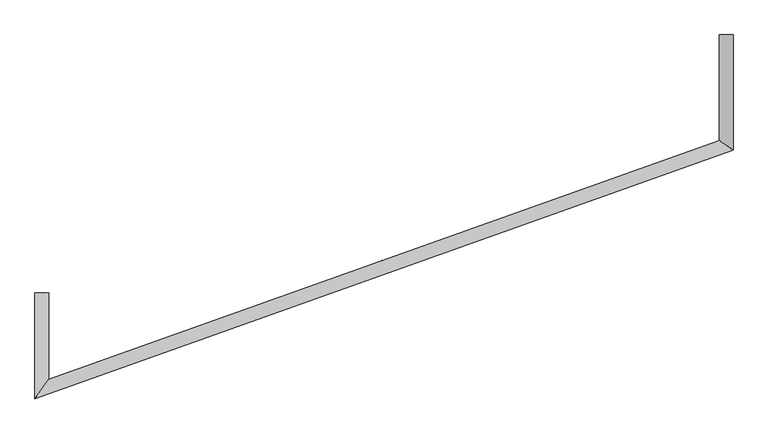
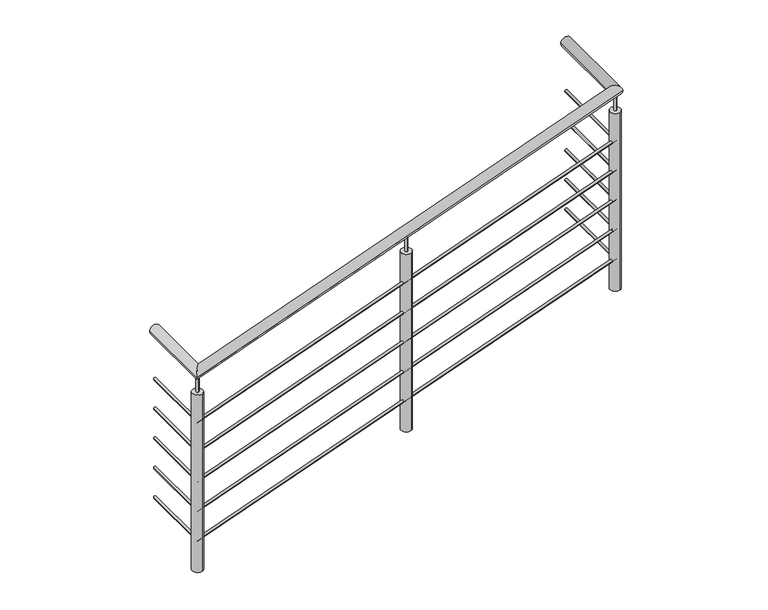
"""IFC4 building model written with IfcOpenShell, lengths in millimetres: railing geometry, Barandal general 2 sin inicio."""

from ifc_helpers import new_model, si_unit, point, frame, frame_2d, origin, place, context, project, spatial, circle_curve, ellipse_curve, trimmed, segment, composite_curve, outline, extrude, source, transform, mapped, element, save
from ifc_brep_helpers import plane_surface, cylinder_surface, advanced_brep


def railing_0f025872(model_context):
    return source(origin(), model_context, "Body", "SolidModel", [
        advanced_brep(
        [(39004.1057586, 22857.0021633, 13000.0), (39054.9057586, 22857.0021633, 13000.0), (39054.9057586, 22431.9822302, 13000.0), (39004.1057586, 22467.808589, 13000.0), (36484.1300226, 21515.8771439, 13000.0), (36534.9300226, 21587.9090245, 13000.0), (36534.9300226, 21905.5468038, 13000.0), (36484.1300226, 21905.5468038, 13000.0)],
        [
            (0, 1, circle_curve(frame((39029.5057586, 22857.0021633, 13000.0), z_axis=(0.0, 1.0, 0.0), x_axis=(1.0, 0.0, 0.0)), 25.4)),
            (1, 0, circle_curve(frame((39029.5057586, 22857.0021633, 13000.0), z_axis=(0.0, 1.0, 0.0), x_axis=(1.0, 0.0, 0.0)), 25.4)),
            (1, 2),
            (2, 3, ellipse_curve(frame((39029.5057586, 22449.8954096, 13000.0), z_axis=(0.5763345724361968, 0.8172138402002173, 0.0), x_axis=(-0.8172138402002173, 0.5763345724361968, 0.0)), 31.0812161, 25.4)),
            (3, 0),
            (3, 2, ellipse_curve(frame((39029.5057586, 22449.8954096, 13000.0), z_axis=(0.5763345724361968, 0.8172138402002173, 0.0), x_axis=(-0.8172138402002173, 0.5763345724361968, 0.0)), 31.0812161, 25.4)),
            (2, 4),
            (4, 5, ellipse_curve(frame((36509.5300226, 21551.8930842, 13000.0), z_axis=(0.8172138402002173, -0.5763345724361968, 0.0), x_axis=(0.5763345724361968, 0.8172138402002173, 0.0)), 44.071623, 25.4)),
            (5, 3),
            (5, 4, ellipse_curve(frame((36509.5300226, 21551.8930842, 13000.0), z_axis=(0.8172138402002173, -0.5763345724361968, 0.0), x_axis=(0.5763345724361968, 0.8172138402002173, 0.0)), 44.071623, 25.4)),
            (6, 7, circle_curve(frame((36509.5300226, 21905.5468038, 13000.0), z_axis=(0.0, 1.0, 0.0), x_axis=(-1.0, 0.0, 0.0)), 25.4)),
            (7, 6, circle_curve(frame((36509.5300226, 21905.5468038, 13000.0), z_axis=(0.0, 1.0, 0.0), x_axis=(-1.0, 0.0, 0.0)), 25.4)),
            (4, 7),
            (6, 5),
        ],
        [
            plane_surface(frame((39029.5057586, 22857.0021633, 13000.0), z_axis=(0.0, 1.0, 0.0), x_axis=(0.0, 0.0, -1.0))),
            cylinder_surface(frame((39029.5057586, 22857.0021633, 13000.0), z_axis=(0.0, 1.0, 0.0), x_axis=(1.0, 0.0, 0.0)), 25.4),
            cylinder_surface(frame((39029.5057586, 22449.8954096, 13000.0), z_axis=(0.9419771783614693, 0.33567692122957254, 0.0), x_axis=(0.33567692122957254, -0.9419771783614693, 0.0)), 25.4),
            plane_surface(frame((36509.5300226, 21905.5468038, 13000.0), z_axis=(0.0, 1.0, 0.0), x_axis=(0.0, 0.0, 1.0))),
            cylinder_surface(frame((36509.5300226, 21551.8930842, 13000.0), z_axis=(0.0, -1.0, 0.0), x_axis=(-1.0, 0.0, 0.0)), 25.4),
        ],
        [
            (0, [[1, 2]]),
            (1, [[-2, 3, 4, 5]]),
            (1, [[-1, -5, 6, -3]]),
            (2, [[-4, 7, 8, 9]]),
            (2, [[-6, -9, 10, -7]]),
            (3, [[11, 12]]),
            (4, [[-8, 13, -11, 14]]),
            (4, [[-10, -14, -12, -13]]),
        ],
    ),
        advanced_brep(
        [(39023.1557586, 22857.0021633, 12750.0), (39035.8557586, 22857.0021633, 12750.0), (39035.8557586, 22445.4171147, 12750.0), (39023.1557586, 22454.3737044, 12750.0), (36503.1800226, 21542.8890991, 12750.0), (36515.8800226, 21560.8970693, 12750.0), (36515.8800226, 21905.5468038, 12750.0), (36503.1800226, 21905.5468038, 12750.0)],
        [
            (0, 1, circle_curve(frame((39029.5057586, 22857.0021633, 12750.0), z_axis=(0.0, 1.0, 0.0), x_axis=(1.0, 0.0, 0.0)), 6.35)),
            (1, 0, circle_curve(frame((39029.5057586, 22857.0021633, 12750.0), z_axis=(0.0, 1.0, 0.0), x_axis=(1.0, 0.0, 0.0)), 6.35)),
            (1, 2),
            (2, 3, ellipse_curve(frame((39029.5057586, 22449.8954096, 12750.0), z_axis=(0.5763345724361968, 0.8172138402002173, 0.0), x_axis=(-0.8172138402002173, 0.5763345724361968, 0.0)), 7.770304, 6.35)),
            (3, 0),
            (3, 2, ellipse_curve(frame((39029.5057586, 22449.8954096, 12750.0), z_axis=(0.5763345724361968, 0.8172138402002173, 0.0), x_axis=(-0.8172138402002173, 0.5763345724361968, 0.0)), 7.770304, 6.35)),
            (2, 4),
            (4, 5, ellipse_curve(frame((36509.5300226, 21551.8930842, 12750.0), z_axis=(0.8172138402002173, -0.5763345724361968, 0.0), x_axis=(0.5763345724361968, 0.8172138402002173, 0.0)), 11.0179058, 6.35)),
            (5, 3),
            (5, 4, ellipse_curve(frame((36509.5300226, 21551.8930842, 12750.0), z_axis=(0.8172138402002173, -0.5763345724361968, 0.0), x_axis=(0.5763345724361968, 0.8172138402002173, 0.0)), 11.0179058, 6.35)),
            (6, 7, circle_curve(frame((36509.5300226, 21905.5468038, 12750.0), z_axis=(0.0, 1.0, 0.0), x_axis=(-1.0, 0.0, 0.0)), 6.35)),
            (7, 6, circle_curve(frame((36509.5300226, 21905.5468038, 12750.0), z_axis=(0.0, 1.0, 0.0), x_axis=(-1.0, 0.0, 0.0)), 6.35)),
            (4, 7),
            (6, 5),
        ],
        [
            plane_surface(frame((39029.5057586, 22857.0021633, 12750.0), z_axis=(0.0, 1.0, 0.0), x_axis=(0.0, 0.0, -1.0))),
            cylinder_surface(frame((39029.5057586, 22857.0021633, 12750.0), z_axis=(0.0, 1.0, 0.0), x_axis=(1.0, 0.0, 0.0)), 6.35),
            cylinder_surface(frame((39029.5057586, 22449.8954096, 12750.0), z_axis=(0.9419771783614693, 0.33567692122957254, 0.0), x_axis=(0.33567692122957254, -0.9419771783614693, 0.0)), 6.35),
            plane_surface(frame((36509.5300226, 21905.5468038, 12750.0), z_axis=(0.0, 1.0, 0.0), x_axis=(0.0, 0.0, 1.0))),
            cylinder_surface(frame((36509.5300226, 21551.8930842, 12750.0), z_axis=(0.0, -1.0, 0.0), x_axis=(-1.0, 0.0, 0.0)), 6.35),
        ],
        [
            (0, [[1, 2]]),
            (1, [[-2, 3, 4, 5]]),
            (1, [[-1, -5, 6, -3]]),
            (2, [[-4, 7, 8, 9]]),
            (2, [[-6, -9, 10, -7]]),
            (3, [[11, 12]]),
            (4, [[-8, 13, -11, 14]]),
            (4, [[-10, -14, -12, -13]]),
        ],
    ),
        advanced_brep(
        [(39023.1557586, 22857.0021633, 12600.0), (39035.8557586, 22857.0021633, 12600.0), (39035.8557586, 22445.4171147, 12600.0), (39023.1557586, 22454.3737044, 12600.0), (36503.1800226, 21542.8890991, 12600.0), (36515.8800226, 21560.8970693, 12600.0), (36515.8800226, 21905.5468038, 12600.0), (36503.1800226, 21905.5468038, 12600.0)],
        [
            (0, 1, circle_curve(frame((39029.5057586, 22857.0021633, 12600.0), z_axis=(0.0, 1.0, 0.0), x_axis=(1.0, 0.0, 0.0)), 6.35)),
            (1, 0, circle_curve(frame((39029.5057586, 22857.0021633, 12600.0), z_axis=(0.0, 1.0, 0.0), x_axis=(1.0, 0.0, 0.0)), 6.35)),
            (1, 2),
            (2, 3, ellipse_curve(frame((39029.5057586, 22449.8954096, 12600.0), z_axis=(0.5763345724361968, 0.8172138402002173, 0.0), x_axis=(-0.8172138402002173, 0.5763345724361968, 0.0)), 7.770304, 6.35)),
            (3, 0),
            (3, 2, ellipse_curve(frame((39029.5057586, 22449.8954096, 12600.0), z_axis=(0.5763345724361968, 0.8172138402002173, 0.0), x_axis=(-0.8172138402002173, 0.5763345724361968, 0.0)), 7.770304, 6.35)),
            (2, 4),
            (4, 5, ellipse_curve(frame((36509.5300226, 21551.8930842, 12600.0), z_axis=(0.8172138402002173, -0.5763345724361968, 0.0), x_axis=(0.5763345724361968, 0.8172138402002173, 0.0)), 11.0179058, 6.35)),
            (5, 3),
            (5, 4, ellipse_curve(frame((36509.5300226, 21551.8930842, 12600.0), z_axis=(0.8172138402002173, -0.5763345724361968, 0.0), x_axis=(0.5763345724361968, 0.8172138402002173, 0.0)), 11.0179058, 6.35)),
            (6, 7, circle_curve(frame((36509.5300226, 21905.5468038, 12600.0), z_axis=(0.0, 1.0, 0.0), x_axis=(-1.0, 0.0, 0.0)), 6.35)),
            (7, 6, circle_curve(frame((36509.5300226, 21905.5468038, 12600.0), z_axis=(0.0, 1.0, 0.0), x_axis=(-1.0, 0.0, 0.0)), 6.35)),
            (4, 7),
            (6, 5),
        ],
        [
            plane_surface(frame((39029.5057586, 22857.0021633, 12600.0), z_axis=(0.0, 1.0, 0.0), x_axis=(0.0, 0.0, -1.0))),
            cylinder_surface(frame((39029.5057586, 22857.0021633, 12600.0), z_axis=(0.0, 1.0, 0.0), x_axis=(1.0, 0.0, 0.0)), 6.35),
            cylinder_surface(frame((39029.5057586, 22449.8954096, 12600.0), z_axis=(0.9419771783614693, 0.33567692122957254, 0.0), x_axis=(0.33567692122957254, -0.9419771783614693, 0.0)), 6.35),
            plane_surface(frame((36509.5300226, 21905.5468038, 12600.0), z_axis=(0.0, 1.0, 0.0), x_axis=(0.0, 0.0, 1.0))),
            cylinder_surface(frame((36509.5300226, 21551.8930842, 12600.0), z_axis=(0.0, -1.0, 0.0), x_axis=(-1.0, 0.0, 0.0)), 6.35),
        ],
        [
            (0, [[1, 2]]),
            (1, [[-2, 3, 4, 5]]),
            (1, [[-1, -5, 6, -3]]),
            (2, [[-4, 7, 8, 9]]),
            (2, [[-6, -9, 10, -7]]),
            (3, [[11, 12]]),
            (4, [[-8, 13, -11, 14]]),
            (4, [[-10, -14, -12, -13]]),
        ],
    ),
        advanced_brep(
        [(39023.1557586, 22857.0021633, 12450.0), (39035.8557586, 22857.0021633, 12450.0), (39035.8557586, 22445.4171147, 12450.0), (39023.1557586, 22454.3737044, 12450.0), (36503.1800226, 21542.8890991, 12450.0), (36515.8800226, 21560.8970693, 12450.0), (36515.8800226, 21905.5468038, 12450.0), (36503.1800226, 21905.5468038, 12450.0)],
        [
            (0, 1, circle_curve(frame((39029.5057586, 22857.0021633, 12450.0), z_axis=(0.0, 1.0, 0.0), x_axis=(1.0, 0.0, 0.0)), 6.35)),
            (1, 0, circle_curve(frame((39029.5057586, 22857.0021633, 12450.0), z_axis=(0.0, 1.0, 0.0), x_axis=(1.0, 0.0, 0.0)), 6.35)),
            (1, 2),
            (2, 3, ellipse_curve(frame((39029.5057586, 22449.8954096, 12450.0), z_axis=(0.5763345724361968, 0.8172138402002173, 0.0), x_axis=(-0.8172138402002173, 0.5763345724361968, 0.0)), 7.770304, 6.35)),
            (3, 0),
            (3, 2, ellipse_curve(frame((39029.5057586, 22449.8954096, 12450.0), z_axis=(0.5763345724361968, 0.8172138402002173, 0.0), x_axis=(-0.8172138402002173, 0.5763345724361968, 0.0)), 7.770304, 6.35)),
            (2, 4),
            (4, 5, ellipse_curve(frame((36509.5300226, 21551.8930842, 12450.0), z_axis=(0.8172138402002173, -0.5763345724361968, 0.0), x_axis=(0.5763345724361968, 0.8172138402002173, 0.0)), 11.0179058, 6.35)),
            (5, 3),
            (5, 4, ellipse_curve(frame((36509.5300226, 21551.8930842, 12450.0), z_axis=(0.8172138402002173, -0.5763345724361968, 0.0), x_axis=(0.5763345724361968, 0.8172138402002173, 0.0)), 11.0179058, 6.35)),
            (6, 7, circle_curve(frame((36509.5300226, 21905.5468038, 12450.0), z_axis=(0.0, 1.0, 0.0), x_axis=(-1.0, 0.0, 0.0)), 6.35)),
            (7, 6, circle_curve(frame((36509.5300226, 21905.5468038, 12450.0), z_axis=(0.0, 1.0, 0.0), x_axis=(-1.0, 0.0, 0.0)), 6.35)),
            (4, 7),
            (6, 5),
        ],
        [
            plane_surface(frame((39029.5057586, 22857.0021633, 12450.0), z_axis=(0.0, 1.0, 0.0), x_axis=(0.0, 0.0, -1.0))),
            cylinder_surface(frame((39029.5057586, 22857.0021633, 12450.0), z_axis=(0.0, 1.0, 0.0), x_axis=(1.0, 0.0, 0.0)), 6.35),
            cylinder_surface(frame((39029.5057586, 22449.8954096, 12450.0), z_axis=(0.9419771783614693, 0.33567692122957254, 0.0), x_axis=(0.33567692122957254, -0.9419771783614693, 0.0)), 6.35),
            plane_surface(frame((36509.5300226, 21905.5468038, 12450.0), z_axis=(0.0, 1.0, 0.0), x_axis=(0.0, 0.0, 1.0))),
            cylinder_surface(frame((36509.5300226, 21551.8930842, 12450.0), z_axis=(0.0, -1.0, 0.0), x_axis=(-1.0, 0.0, 0.0)), 6.35),
        ],
        [
            (0, [[1, 2]]),
            (1, [[-2, 3, 4, 5]]),
            (1, [[-1, -5, 6, -3]]),
            (2, [[-4, 7, 8, 9]]),
            (2, [[-6, -9, 10, -7]]),
            (3, [[11, 12]]),
            (4, [[-8, 13, -11, 14]]),
            (4, [[-10, -14, -12, -13]]),
        ],
    ),
        advanced_brep(
        [(39023.1557586, 22857.0021633, 12300.0), (39035.8557586, 22857.0021633, 12300.0), (39035.8557586, 22445.4171147, 12300.0), (39023.1557586, 22454.3737044, 12300.0), (36503.1800226, 21542.8890991, 12300.0), (36515.8800226, 21560.8970693, 12300.0), (36515.8800226, 21905.5468038, 12300.0), (36503.1800226, 21905.5468038, 12300.0)],
        [
            (0, 1, circle_curve(frame((39029.5057586, 22857.0021633, 12300.0), z_axis=(0.0, 1.0, 0.0), x_axis=(1.0, 0.0, 0.0)), 6.35)),
            (1, 0, circle_curve(frame((39029.5057586, 22857.0021633, 12300.0), z_axis=(0.0, 1.0, 0.0), x_axis=(1.0, 0.0, 0.0)), 6.35)),
            (1, 2),
            (2, 3, ellipse_curve(frame((39029.5057586, 22449.8954096, 12300.0), z_axis=(0.5763345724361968, 0.8172138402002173, 0.0), x_axis=(-0.8172138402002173, 0.5763345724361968, 0.0)), 7.770304, 6.35)),
            (3, 0),
            (3, 2, ellipse_curve(frame((39029.5057586, 22449.8954096, 12300.0), z_axis=(0.5763345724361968, 0.8172138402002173, 0.0), x_axis=(-0.8172138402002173, 0.5763345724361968, 0.0)), 7.770304, 6.35)),
            (2, 4),
            (4, 5, ellipse_curve(frame((36509.5300226, 21551.8930842, 12300.0), z_axis=(0.8172138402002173, -0.5763345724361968, 0.0), x_axis=(0.5763345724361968, 0.8172138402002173, 0.0)), 11.0179058, 6.35)),
            (5, 3),
            (5, 4, ellipse_curve(frame((36509.5300226, 21551.8930842, 12300.0), z_axis=(0.8172138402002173, -0.5763345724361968, 0.0), x_axis=(0.5763345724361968, 0.8172138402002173, 0.0)), 11.0179058, 6.35)),
            (6, 7, circle_curve(frame((36509.5300226, 21905.5468038, 12300.0), z_axis=(0.0, 1.0, 0.0), x_axis=(-1.0, 0.0, 0.0)), 6.35)),
            (7, 6, circle_curve(frame((36509.5300226, 21905.5468038, 12300.0), z_axis=(0.0, 1.0, 0.0), x_axis=(-1.0, 0.0, 0.0)), 6.35)),
            (4, 7),
            (6, 5),
        ],
        [
            plane_surface(frame((39029.5057586, 22857.0021633, 12300.0), z_axis=(0.0, 1.0, 0.0), x_axis=(0.0, 0.0, -1.0))),
            cylinder_surface(frame((39029.5057586, 22857.0021633, 12300.0), z_axis=(0.0, 1.0, 0.0), x_axis=(1.0, 0.0, 0.0)), 6.35),
            cylinder_surface(frame((39029.5057586, 22449.8954096, 12300.0), z_axis=(0.9419771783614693, 0.33567692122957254, 0.0), x_axis=(0.33567692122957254, -0.9419771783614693, 0.0)), 6.35),
            plane_surface(frame((36509.5300226, 21905.5468038, 12300.0), z_axis=(0.0, 1.0, 0.0), x_axis=(0.0, 0.0, 1.0))),
            cylinder_surface(frame((36509.5300226, 21551.8930842, 12300.0), z_axis=(0.0, -1.0, 0.0), x_axis=(-1.0, 0.0, 0.0)), 6.35),
        ],
        [
            (0, [[1, 2]]),
            (1, [[-2, 3, 4, 5]]),
            (1, [[-1, -5, 6, -3]]),
            (2, [[-4, 7, 8, 9]]),
            (2, [[-6, -9, 10, -7]]),
            (3, [[11, 12]]),
            (4, [[-8, 13, -11, 14]]),
            (4, [[-10, -14, -12, -13]]),
        ],
    ),
        advanced_brep(
        [(39023.1557586, 22857.0021633, 12150.0), (39035.8557586, 22857.0021633, 12150.0), (39035.8557586, 22445.4171147, 12150.0), (39023.1557586, 22454.3737044, 12150.0), (36503.1800226, 21542.8890991, 12150.0), (36515.8800226, 21560.8970693, 12150.0), (36515.8800226, 21905.5468038, 12150.0), (36503.1800226, 21905.5468038, 12150.0)],
        [
            (0, 1, circle_curve(frame((39029.5057586, 22857.0021633, 12150.0), z_axis=(0.0, 1.0, 0.0), x_axis=(1.0, 0.0, 0.0)), 6.35)),
            (1, 0, circle_curve(frame((39029.5057586, 22857.0021633, 12150.0), z_axis=(0.0, 1.0, 0.0), x_axis=(1.0, 0.0, 0.0)), 6.35)),
            (1, 2),
            (2, 3, ellipse_curve(frame((39029.5057586, 22449.8954096, 12150.0), z_axis=(0.5763345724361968, 0.8172138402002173, 0.0), x_axis=(-0.8172138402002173, 0.5763345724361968, 0.0)), 7.770304, 6.35)),
            (3, 0),
            (3, 2, ellipse_curve(frame((39029.5057586, 22449.8954096, 12150.0), z_axis=(0.5763345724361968, 0.8172138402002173, 0.0), x_axis=(-0.8172138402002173, 0.5763345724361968, 0.0)), 7.770304, 6.35)),
            (2, 4),
            (4, 5, ellipse_curve(frame((36509.5300226, 21551.8930842, 12150.0), z_axis=(0.8172138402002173, -0.5763345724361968, 0.0), x_axis=(0.5763345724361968, 0.8172138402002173, 0.0)), 11.0179058, 6.35)),
            (5, 3),
            (5, 4, ellipse_curve(frame((36509.5300226, 21551.8930842, 12150.0), z_axis=(0.8172138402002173, -0.5763345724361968, 0.0), x_axis=(0.5763345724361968, 0.8172138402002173, 0.0)), 11.0179058, 6.35)),
            (6, 7, circle_curve(frame((36509.5300226, 21905.5468038, 12150.0), z_axis=(0.0, 1.0, 0.0), x_axis=(-1.0, 0.0, 0.0)), 6.35)),
            (7, 6, circle_curve(frame((36509.5300226, 21905.5468038, 12150.0), z_axis=(0.0, 1.0, 0.0), x_axis=(-1.0, 0.0, 0.0)), 6.35)),
            (4, 7),
            (6, 5),
        ],
        [
            plane_surface(frame((39029.5057586, 22857.0021633, 12150.0), z_axis=(0.0, 1.0, 0.0), x_axis=(0.0, 0.0, -1.0))),
            cylinder_surface(frame((39029.5057586, 22857.0021633, 12150.0), z_axis=(0.0, 1.0, 0.0), x_axis=(1.0, 0.0, 0.0)), 6.35),
            cylinder_surface(frame((39029.5057586, 22449.8954096, 12150.0), z_axis=(0.9419771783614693, 0.33567692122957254, 0.0), x_axis=(0.33567692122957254, -0.9419771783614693, 0.0)), 6.35),
            plane_surface(frame((36509.5300226, 21905.5468038, 12150.0), z_axis=(0.0, 1.0, 0.0), x_axis=(0.0, 0.0, 1.0))),
            cylinder_surface(frame((36509.5300226, 21551.8930842, 12150.0), z_axis=(0.0, -1.0, 0.0), x_axis=(-1.0, 0.0, 0.0)), 6.35),
        ],
        [
            (0, [[1, 2]]),
            (1, [[-2, 3, 4, 5]]),
            (1, [[-1, -5, 6, -3]]),
            (2, [[-4, 7, 8, 9]]),
            (2, [[-6, -9, 10, -7]]),
            (3, [[11, 12]]),
            (4, [[-8, 13, -11, 14]]),
            (4, [[-10, -14, -12, -13]]),
        ],
    ),
        extrude(outline(composite_curve([segment(trimmed(circle_curve(frame_2d((36509.5300226, 21551.8930842)), 6.35), [point((36511.661571, 21545.9115291))], [point((36507.3984741, 21557.8746393))], False, "CARTESIAN"), True, "CONTINUOUS"), segment(trimmed(circle_curve(frame_2d((36509.5300226, 21551.8930842)), 6.35), [point((36507.3984741, 21557.8746393))], [point((36511.661571, 21545.9115291))], False, "CARTESIAN"), True, "CONTINUOUS")], self_intersect=False)), frame((0.0, 0.0, 12899.6), z_axis=(0.0, 0.0, 1.0), x_axis=(1.0, 0.0, 0.0)), (0.0, 0.0, 1.0), 75.0),
        extrude(outline(composite_curve([segment(trimmed(circle_curve(frame_2d((36509.5300226, 21551.8930842)), 25.4), [point((36518.0562164, 21527.9668639))], [point((36501.0038288, 21575.8193045))], False, "CARTESIAN"), True, "CONTINUOUS"), segment(trimmed(circle_curve(frame_2d((36509.5300226, 21551.8930842)), 25.4), [point((36501.0038288, 21575.8193045))], [point((36518.0562164, 21527.9668639))], False, "CARTESIAN"), True, "CONTINUOUS")], self_intersect=False)), frame((0.0, 0.0, 12000.0), z_axis=(0.0, 0.0, 1.0), x_axis=(1.0, 0.0, 0.0)), (0.0, 0.0, 1.0), 899.6),
        extrude(outline(composite_curve([segment(trimmed(circle_curve(frame_2d((37769.5178906, 22000.8942469)), 6.35), [point((37771.649439, 21994.9126918))], [point((37767.3863421, 22006.875802))], False, "CARTESIAN"), True, "CONTINUOUS"), segment(trimmed(circle_curve(frame_2d((37769.5178906, 22000.8942469)), 6.35), [point((37767.3863421, 22006.875802))], [point((37771.649439, 21994.9126918))], False, "CARTESIAN"), True, "CONTINUOUS")], self_intersect=False)), frame((0.0, 0.0, 12899.6), z_axis=(0.0, 0.0, 1.0), x_axis=(1.0, 0.0, 0.0)), (0.0, 0.0, 1.0), 75.0),
        extrude(outline(composite_curve([segment(trimmed(circle_curve(frame_2d((37769.5178906, 22000.8942469)), 25.4), [point((37778.0440844, 21976.9680266))], [point((37760.9916968, 22024.8204672))], False, "CARTESIAN"), True, "CONTINUOUS"), segment(trimmed(circle_curve(frame_2d((37769.5178906, 22000.8942469)), 25.4), [point((37760.9916968, 22024.8204672))], [point((37778.0440844, 21976.9680266))], False, "CARTESIAN"), True, "CONTINUOUS")], self_intersect=False)), frame((0.0, 0.0, 12000.0), z_axis=(0.0, 0.0, 1.0), x_axis=(1.0, 0.0, 0.0)), (0.0, 0.0, 1.0), 899.6),
        extrude(outline(composite_curve([segment(trimmed(circle_curve(frame_2d((39029.5057586, 22449.8954096)), 6.35), [point((39031.637307, 22443.9138545))], [point((39027.3742101, 22455.8769647))], False, "CARTESIAN"), True, "CONTINUOUS"), segment(trimmed(circle_curve(frame_2d((39029.5057586, 22449.8954096)), 6.35), [point((39027.3742101, 22455.8769647))], [point((39031.637307, 22443.9138545))], False, "CARTESIAN"), True, "CONTINUOUS")], self_intersect=False)), frame((0.0, 0.0, 12899.6), z_axis=(0.0, 0.0, 1.0), x_axis=(1.0, 0.0, 0.0)), (0.0, 0.0, 1.0), 75.0),
        extrude(outline(composite_curve([segment(trimmed(circle_curve(frame_2d((39029.5057586, 22449.8954096)), 25.4), [point((39038.0319524, 22425.9691892))], [point((39020.9795648, 22473.8216299))], False, "CARTESIAN"), True, "CONTINUOUS"), segment(trimmed(circle_curve(frame_2d((39029.5057586, 22449.8954096)), 25.4), [point((39020.9795648, 22473.8216299))], [point((39038.0319524, 22425.9691892))], False, "CARTESIAN"), True, "CONTINUOUS")], self_intersect=False)), frame((0.0, 0.0, 12000.0), z_axis=(0.0, 0.0, 1.0), x_axis=(1.0, 0.0, 0.0)), (0.0, 0.0, 1.0), 899.6),
    ])


if __name__ == "__main__":
    model = new_model("IFC4")
    model_context = context("Model", 3, world=origin())
    ifc_project = project(units=[si_unit("LENGTHUNIT", "METRE", prefix="MILLI")], contexts=[model_context])
    site = spatial("IfcSite", under=ifc_project)
    building = spatial("IfcBuilding", under=site)
    placement = place(None, origin())
    railing_shape = railing_0f025872(model_context)
    element("IfcRailing", 1, ObjectType="Barandal general 2 sin inicio", at=placement, inside=building, context=model_context, shape_type="MappedRepresentation", body=[
        mapped(railing_shape, transform((0.0, 0.0, 0.0), x_axis=(1.0, 0.0, 0.0), y_axis=(0.0, 1.0, 0.0), z_axis=(0.0, 0.0, 1.0))),
    ])
    save(model, "model.ifc")
